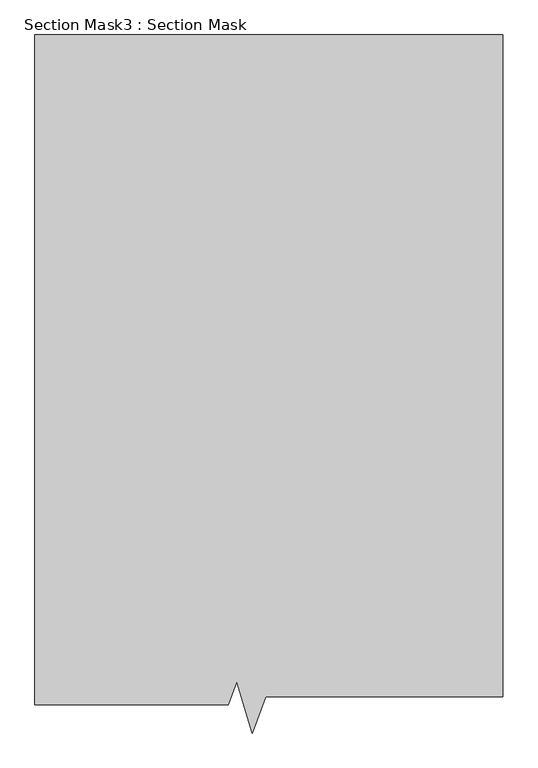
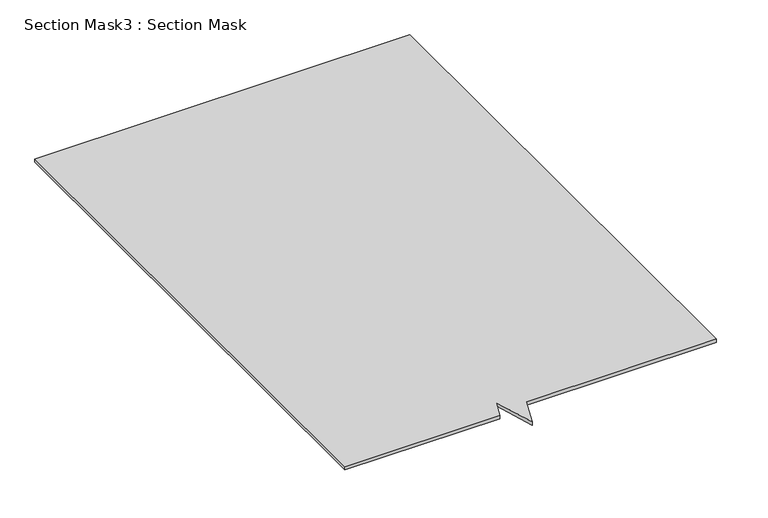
"""IFC4 building model written with IfcOpenShell, lengths in millimetres: proxy geometry, Section Mask3 : Section Mask."""

from ifc_helpers import new_model, si_unit, frame, origin, place, context, project, spatial, polyline, outline, extrude, source, transform, mapped, element, save


def section_mask3_section_mask_931ff8b5(model_context):
    return source(origin(), model_context, "Body", "SweptSolid", [
        extrude(outline(polyline([(8124.664325, 631.273934), (7595.23088, 631.273934), (7595.23088, 2465.4614947), (8876.4836184, 2465.4614947), (8876.4836184, 652.1224056), (8227.2982256, 652.1224056), (8190.6813689, 552.9595639), (8147.6812645, 693.6065681), (8124.664325, 631.273934)])), frame((0.0, 0.0, 45.0273345), z_axis=(0.0, 0.0, 1.0), x_axis=(1.0, 0.0, 0.0)), (0.0, 0.0, 1.0), 11.9873997),
    ])


if __name__ == "__main__":
    model = new_model("IFC4")
    model_context = context("Model", 3, world=origin())
    ifc_project = project(units=[si_unit("LENGTHUNIT", "METRE", prefix="MILLI")], contexts=[model_context])
    site = spatial("IfcSite", under=ifc_project)
    building = spatial("IfcBuilding", under=site)
    placement = place(None, origin())
    section_mask3_section_mask_shape = section_mask3_section_mask_931ff8b5(model_context)
    element("IfcBuildingElementProxy", 1, Name="Section Mask3 : Section Mask", ObjectType="Section Mask3 : Section Mask", at=placement, inside=building, context=model_context, shape_type="MappedRepresentation", body=[
        mapped(section_mask3_section_mask_shape, transform((0.0, 0.0, 0.0), x_axis=(1.0, 0.0, 0.0), y_axis=(0.0, 1.0, 0.0), z_axis=(0.0, 0.0, 1.0))),
    ])
    save(model, "model.ifc")
